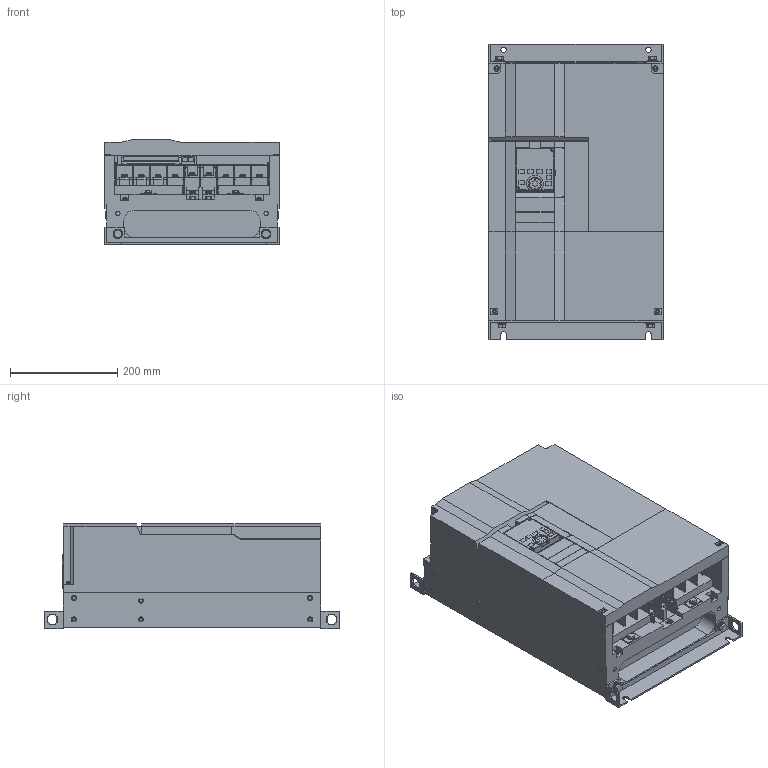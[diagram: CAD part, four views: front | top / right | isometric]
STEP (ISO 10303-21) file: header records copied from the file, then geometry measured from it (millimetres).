
FILE_DESCRIPTION((''),'2;1');
FILE_NAME('3D-INV-A8-02_10_ASM','2014-01-20T',('PZ79677'),(''),'PRO/ENGINEER BY PARAMETRIC TECHNOLOGY CORPORATION, 2011490','PRO/ENGINEER BY PARAMETRIC TECHNOLOGY CORPORATION, 2011490','');
FILE_SCHEMA(('CONFIG_CONTROL_DESIGN'));
Products named in the file (28): 3D-WAKU-A8-02_10; 3D-WAKU-A8-02_10_ASM; 3D-ASHI_UPR-A8-01_09; 3D-BOLT-SW-PW-M8X20_; 3D-ASHI_UPR-BOLT-A8-01_09_ASM; 3D-ASHI_LOW-A8-01_09; 3D-ASHI_LOW-BOLT-A8-01_09_ASM; 3D-FAN-80; 3D-FAN_COV-A8-01_09; 3D-FAN_ASSY-A8-01_09_ASM; 3D-BOLT-SW-PW-P-M6X12_; 3D-TA-A8; 3D-A8-TA_ASM; 3D-TE_NEJI-M4X8_; 3D-TE_COV-R1S1_; 3D-TE_ASSY-A8-R1S1_ASM; 3D-SHORT-P_P1-A8-01_09; 3D-SW-PW-P-M6X14_; 3D-TE_COV-01_09; 3D-TE_NEJI-A8-02_10_ASM; 3D-CA_COV-A8-01_09; 3D-DU_ASSY-A8; 3D-IF_COV-A80; 3D-SC-PN-BD-M4X10-BZN; 3D-CA_COV-A8-01_09_ASM; 3D-TE_COV-A8-01_09; 3D-TE_COV-A8-01_09_ASM; 3D-INV-A8-02_10_ASM
Assembly tree (49 placements, depth 3):
  3D-INV-A8-02_10_ASM
    3D-WAKU-A8-02_10_ASM
      3D-WAKU-A8-02_10
    3D-ASHI_UPR-A8-01_09
    3D-ASHI_UPR-BOLT-A8-01_09_ASM
      3D-BOLT-SW-PW-M8X20_  x2
    3D-ASHI_LOW-A8-01_09
    3D-ASHI_LOW-BOLT-A8-01_09_ASM
      3D-BOLT-SW-PW-M8X20_  x2
    3D-FAN_ASSY-A8-01_09_ASM
      3D-FAN-80  x3
      3D-FAN_COV-A8-01_09
    3D-BOLT-SW-PW-P-M6X12_  x2
    3D-A8-TA_ASM
      3D-TA-A8
    3D-TE_ASSY-A8-R1S1_ASM
      3D-TE_NEJI-M4X8_  x4
      3D-TE_COV-R1S1_
    3D-TE_NEJI-A8-02_10_ASM
      3D-SHORT-P_P1-A8-01_09
      3D-SW-PW-P-M6X14_  x11
      3D-TE_COV-01_09
    3D-CA_COV-A8-01_09_ASM
      3D-CA_COV-A8-01_09
      3D-DU_ASSY-A8
      3D-IF_COV-A80
      3D-SC-PN-BD-M4X10-BZN  x2
    3D-TE_COV-A8-01_09_ASM
      3D-TE_COV-A8-01_09
      3D-SC-PN-BD-M4X10-BZN  x2
Bounding box: 325 x 550 x 196 mm (x, y, z)
Volume: 23995775.3 mm3; surface area: 1518300.4 mm2
Topology: 41 solids, 54 shells, 3625 faces, 9395 edges, 5878 vertices
Faces by surface type: plane 2366, cylinder 895, torus 228, cone 70, sphere 66
Entity records: 114364 total; most frequent: CARTESIAN_POINT 33880, ORIENTED_EDGE 16946, DIRECTION 15911, EDGE_CURVE 8473, VECTOR 6277, LINE 6277, VERTEX_POINT 5341, AXIS2_PLACEMENT_3D 4817
